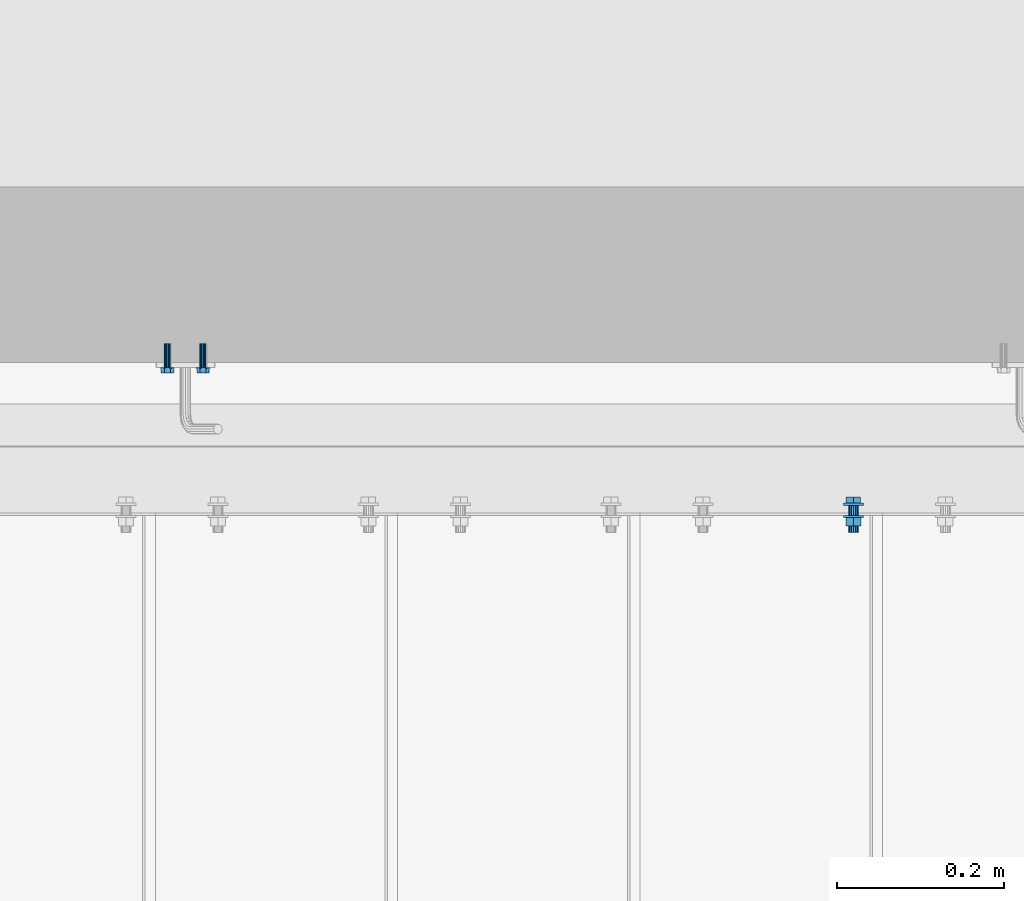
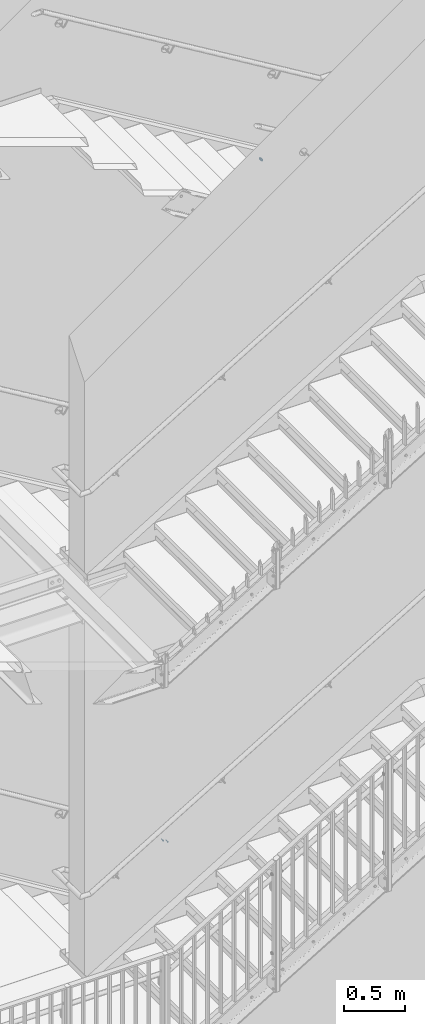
# One storey, part 350 of 410: 2 mechanical fasteners.
"""IFC2X3 building model written with IfcOpenShell, lengths in millimetres."""

from ifc_helpers import new_model, entity, si_unit, converted_unit, origin_with_axes, place, context, project, spatial, faceted_brep, element, save


model = new_model("IFC2X3")

# Units and contexts
model_context = context("Model", 3, precision=1e-09, world=origin_with_axes())
ifc_project = project(units=[si_unit("LENGTHUNIT", "METRE", prefix="MILLI"), si_unit("AREAUNIT", "SQUARE_METRE"), si_unit("VOLUMEUNIT", "CUBIC_METRE"), converted_unit("PLANEANGLEUNIT", "DEGREE", entity("IfcPlaneAngleMeasure", 0.01745329), si_unit("PLANEANGLEUNIT", "RADIAN"), dimensions=[0, 0, 0, 0, 0, 0, 0])], contexts=[model_context])

# Site, building, storey
site_placement = place(None, origin_with_axes())
site = spatial("IfcSite", under=ifc_project, at=site_placement, Name="mKR Teilneubau & Sanierung BA1 - Ostfildern", CompositionType="ELEMENT")
building_placement = place(site_placement, origin_with_axes())
building = spatial("IfcBuilding", under=site, at=building_placement, Name="Struktur 1", CompositionType="ELEMENT")
storey_placement = place(building_placement, origin_with_axes())
storey = spatial("IfcBuildingStorey", under=building, at=storey_placement, Name="Default Storey", CompositionType="ELEMENT", Elevation=0.0)

# Mechanical fasteners
mechanical_fastener_1_placement = place(None, origin_with_axes())
element("IfcMechanicalFastener", 1, at=mechanical_fastener_1_placement, inside=storey, ObjectType="Bolt", NominalDiameter=12.0, NominalLength=35.0, context=model_context, shape_type="Brep", body=[
    faceted_brep([(882.0, 18451.499999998, 6220.0), (882.0, 18448.999999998, 6220.0), (881.769423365, 18448.999999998, 6217.658916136), (881.769423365, 18451.499999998, 6217.658916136), (881.08655439, 18448.999999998, 6215.407798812), (881.08655439, 18451.499999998, 6215.407798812), (879.977635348, 18448.999999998, 6213.333157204), (879.977635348, 18451.499999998, 6213.333157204), (878.485281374, 18448.999999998, 6211.514718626), (878.485281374, 18451.499999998, 6211.514718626), (876.666842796, 18448.999999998, 6210.022364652), (876.666842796, 18451.499999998, 6210.022364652), (874.592201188, 18448.999999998, 6208.91344561), (874.592201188, 18451.499999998, 6208.91344561), (872.341083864, 18448.999999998, 6208.230576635), (872.341083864, 18451.499999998, 6208.230576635), (870.0, 18448.999999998, 6208.0), (870.0, 18451.499999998, 6208.0), (867.658916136, 18448.999999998, 6208.230576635), (867.658916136, 18451.499999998, 6208.230576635), (865.407798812, 18448.999999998, 6208.91344561), (865.407798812, 18451.499999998, 6208.91344561), (863.333157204, 18448.999999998, 6210.022364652), (863.333157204, 18451.499999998, 6210.022364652), (861.514718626, 18448.999999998, 6211.514718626), (861.514718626, 18451.499999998, 6211.514718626), (860.022364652, 18448.999999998, 6213.333157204), (860.022364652, 18451.499999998, 6213.333157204), (858.91344561, 18448.999999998, 6215.407798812), (858.91344561, 18451.499999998, 6215.407798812), (858.230576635, 18448.999999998, 6217.658916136), (858.230576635, 18451.499999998, 6217.658916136), (858.0, 18448.999999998, 6220.0), (858.0, 18451.499999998, 6220.0), (858.230576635, 18448.999999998, 6222.341083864), (858.230576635, 18451.499999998, 6222.341083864), (858.91344561, 18448.999999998, 6224.592201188), (858.91344561, 18451.499999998, 6224.592201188), (860.022364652, 18448.999999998, 6226.666842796), (860.022364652, 18451.499999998, 6226.666842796), (861.514718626, 18448.999999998, 6228.485281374), (861.514718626, 18451.499999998, 6228.485281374), (863.333157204, 18448.999999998, 6229.977635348), (863.333157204, 18451.499999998, 6229.977635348), (865.407798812, 18448.999999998, 6231.08655439), (865.407798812, 18451.499999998, 6231.08655439), (867.658916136, 18448.999999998, 6231.769423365), (867.658916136, 18451.499999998, 6231.769423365), (870.0, 18448.999999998, 6232.0), (870.0, 18451.499999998, 6232.0), (872.341083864, 18448.999999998, 6231.769423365), (872.341083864, 18451.499999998, 6231.769423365), (874.592201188, 18448.999999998, 6231.08655439), (874.592201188, 18451.499999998, 6231.08655439), (876.666842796, 18448.999999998, 6229.977635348), (876.666842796, 18451.499999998, 6229.977635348), (878.485281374, 18448.999999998, 6228.485281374), (878.485281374, 18451.499999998, 6228.485281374), (879.977635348, 18448.999999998, 6226.666842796), (879.977635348, 18451.499999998, 6226.666842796), (881.08655439, 18448.999999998, 6224.592201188), (881.08655439, 18451.499999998, 6224.592201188), (881.769423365, 18448.999999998, 6222.341083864), (881.769423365, 18451.499999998, 6222.341083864)], [[[0, 1, 2, 3]], [[3, 2, 4, 5]], [[5, 4, 6, 7]], [[7, 6, 8, 9]], [[9, 8, 10, 11]], [[11, 10, 12, 13]], [[13, 12, 14, 15]], [[15, 14, 16, 17]], [[17, 16, 18, 19]], [[19, 18, 20, 21]], [[21, 20, 22, 23]], [[23, 22, 24, 25]], [[25, 24, 26, 27]], [[27, 26, 28, 29]], [[29, 28, 30, 31]], [[31, 30, 32, 33]], [[33, 32, 34, 35]], [[35, 34, 36, 37]], [[37, 36, 38, 39]], [[39, 38, 40, 41]], [[41, 40, 42, 43]], [[43, 42, 44, 45]], [[45, 44, 46, 47]], [[47, 46, 48, 49]], [[49, 48, 50, 51]], [[51, 50, 52, 53]], [[53, 52, 54, 55]], [[55, 54, 56, 57]], [[57, 56, 58, 59]], [[59, 58, 60, 61]], [[61, 60, 62, 63]], [[63, 62, 1, 0]], [[0, 3, 5, 7, 9, 11, 13, 15, 17, 19, 21, 23, 25, 27, 29, 31, 33, 35, 37, 39, 41, 43, 45, 47, 49, 51, 53, 55, 57, 59, 61, 63]], [[1, 62, 60, 58, 56, 54, 52, 50, 48, 46, 44, 42, 40, 38, 36, 34, 32, 30, 28, 26, 24, 22, 20, 18, 16, 14, 12, 10, 8, 6, 4, 2]]]),
    faceted_brep([(861.326755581, 18451.499999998, 6214.9925), (861.326755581, 18458.999999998, 6214.9925), (870.0, 18458.999999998, 6209.985), (870.0, 18451.499999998, 6209.985), (878.673244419, 18458.999999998, 6214.9925), (878.673244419, 18451.499999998, 6214.9925), (878.673244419, 18458.999999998, 6225.0075), (878.673244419, 18451.499999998, 6225.0075), (870.0, 18458.999999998, 6230.015), (870.0, 18451.499999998, 6230.015), (861.326755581, 18458.999999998, 6225.0075), (861.326755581, 18451.499999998, 6225.0075)], [[[0, 1, 2, 3]], [[3, 2, 4, 5]], [[5, 4, 6, 7]], [[7, 6, 8, 9]], [[9, 8, 10, 11]], [[11, 10, 1, 0]], [[4, 2, 1, 10, 8, 6]], [[0, 3, 5, 7, 9, 11]]]),
    faceted_brep([(876.0, 18448.999999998, 6220.0), (876.0, 18436.999999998, 6220.0), (875.543277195, 18436.999999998, 6217.703899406), (875.543277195, 18448.999999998, 6217.703899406), (874.242640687, 18436.999999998, 6215.757359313), (874.242640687, 18448.999999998, 6215.757359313), (872.296100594, 18436.999999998, 6214.456722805), (872.296100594, 18448.999999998, 6214.456722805), (870.0, 18436.999999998, 6214.0), (870.0, 18448.999999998, 6214.0), (867.703899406, 18436.999999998, 6214.456722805), (867.703899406, 18448.999999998, 6214.456722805), (865.757359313, 18436.999999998, 6215.757359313), (865.757359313, 18448.999999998, 6215.757359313), (864.456722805, 18436.999999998, 6217.703899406), (864.456722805, 18448.999999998, 6217.703899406), (864.0, 18436.999999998, 6220.0), (864.0, 18448.999999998, 6220.0), (864.456722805, 18436.999999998, 6222.296100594), (864.456722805, 18448.999999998, 6222.296100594), (865.757359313, 18436.999999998, 6224.242640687), (865.757359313, 18448.999999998, 6224.242640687), (867.703899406, 18436.999999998, 6225.543277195), (867.703899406, 18448.999999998, 6225.543277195), (870.0, 18436.999999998, 6226.0), (870.0, 18448.999999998, 6226.0), (872.296100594, 18436.999999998, 6225.543277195), (872.296100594, 18448.999999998, 6225.543277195), (874.242640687, 18436.999999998, 6224.242640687), (874.242640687, 18448.999999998, 6224.242640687), (875.543277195, 18436.999999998, 6222.296100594), (875.543277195, 18448.999999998, 6222.296100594)], [[[0, 1, 2, 3]], [[3, 2, 4, 5]], [[5, 4, 6, 7]], [[7, 6, 8, 9]], [[9, 8, 10, 11]], [[11, 10, 12, 13]], [[13, 12, 14, 15]], [[15, 14, 16, 17]], [[17, 16, 18, 19]], [[19, 18, 20, 21]], [[21, 20, 22, 23]], [[23, 22, 24, 25]], [[25, 24, 26, 27]], [[27, 26, 28, 29]], [[29, 28, 30, 31]], [[31, 30, 1, 0]], [[0, 3, 5, 7, 9, 11, 13, 15, 17, 19, 21, 23, 25, 27, 29, 31]], [[1, 30, 28, 26, 24, 22, 20, 18, 16, 14, 12, 10, 8, 6, 4, 2]]]),
    faceted_brep([(882.0, 18436.999999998, 6220.0), (882.0, 18434.499999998, 6220.0), (881.769423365, 18434.499999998, 6217.658916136), (881.769423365, 18436.999999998, 6217.658916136), (881.08655439, 18434.499999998, 6215.407798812), (881.08655439, 18436.999999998, 6215.407798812), (879.977635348, 18434.499999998, 6213.333157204), (879.977635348, 18436.999999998, 6213.333157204), (878.485281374, 18434.499999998, 6211.514718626), (878.485281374, 18436.999999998, 6211.514718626), (876.666842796, 18434.499999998, 6210.022364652), (876.666842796, 18436.999999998, 6210.022364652), (874.592201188, 18434.499999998, 6208.91344561), (874.592201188, 18436.999999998, 6208.91344561), (872.341083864, 18434.499999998, 6208.230576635), (872.341083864, 18436.999999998, 6208.230576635), (870.0, 18434.499999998, 6208.0), (870.0, 18436.999999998, 6208.0), (867.658916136, 18434.499999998, 6208.230576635), (867.658916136, 18436.999999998, 6208.230576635), (865.407798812, 18434.499999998, 6208.91344561), (865.407798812, 18436.999999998, 6208.91344561), (863.333157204, 18434.499999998, 6210.022364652), (863.333157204, 18436.999999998, 6210.022364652), (861.514718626, 18434.499999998, 6211.514718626), (861.514718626, 18436.999999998, 6211.514718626), (860.022364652, 18434.499999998, 6213.333157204), (860.022364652, 18436.999999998, 6213.333157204), (858.91344561, 18434.499999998, 6215.407798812), (858.91344561, 18436.999999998, 6215.407798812), (858.230576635, 18434.499999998, 6217.658916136), (858.230576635, 18436.999999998, 6217.658916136), (858.0, 18434.499999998, 6220.0), (858.0, 18436.999999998, 6220.0), (858.230576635, 18434.499999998, 6222.341083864), (858.230576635, 18436.999999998, 6222.341083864), (858.91344561, 18434.499999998, 6224.592201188), (858.91344561, 18436.999999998, 6224.592201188), (860.022364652, 18434.499999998, 6226.666842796), (860.022364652, 18436.999999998, 6226.666842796), (861.514718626, 18434.499999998, 6228.485281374), (861.514718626, 18436.999999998, 6228.485281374), (863.333157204, 18434.499999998, 6229.977635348), (863.333157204, 18436.999999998, 6229.977635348), (865.407798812, 18434.499999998, 6231.08655439), (865.407798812, 18436.999999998, 6231.08655439), (867.658916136, 18434.499999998, 6231.769423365), (867.658916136, 18436.999999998, 6231.769423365), (870.0, 18434.499999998, 6232.0), (870.0, 18436.999999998, 6232.0), (872.341083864, 18434.499999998, 6231.769423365), (872.341083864, 18436.999999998, 6231.769423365), (874.592201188, 18434.499999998, 6231.08655439), (874.592201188, 18436.999999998, 6231.08655439), (876.666842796, 18434.499999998, 6229.977635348), (876.666842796, 18436.999999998, 6229.977635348), (878.485281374, 18434.499999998, 6228.485281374), (878.485281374, 18436.999999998, 6228.485281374), (879.977635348, 18434.499999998, 6226.666842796), (879.977635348, 18436.999999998, 6226.666842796), (881.08655439, 18434.499999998, 6224.592201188), (881.08655439, 18436.999999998, 6224.592201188), (881.769423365, 18434.499999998, 6222.341083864), (881.769423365, 18436.999999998, 6222.341083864)], [[[0, 1, 2, 3]], [[3, 2, 4, 5]], [[5, 4, 6, 7]], [[7, 6, 8, 9]], [[9, 8, 10, 11]], [[11, 10, 12, 13]], [[13, 12, 14, 15]], [[15, 14, 16, 17]], [[17, 16, 18, 19]], [[19, 18, 20, 21]], [[21, 20, 22, 23]], [[23, 22, 24, 25]], [[25, 24, 26, 27]], [[27, 26, 28, 29]], [[29, 28, 30, 31]], [[31, 30, 32, 33]], [[33, 32, 34, 35]], [[35, 34, 36, 37]], [[37, 36, 38, 39]], [[39, 38, 40, 41]], [[41, 40, 42, 43]], [[43, 42, 44, 45]], [[45, 44, 46, 47]], [[47, 46, 48, 49]], [[49, 48, 50, 51]], [[51, 50, 52, 53]], [[53, 52, 54, 55]], [[55, 54, 56, 57]], [[57, 56, 58, 59]], [[59, 58, 60, 61]], [[61, 60, 62, 63]], [[63, 62, 1, 0]], [[0, 3, 5, 7, 9, 11, 13, 15, 17, 19, 21, 23, 25, 27, 29, 31, 33, 35, 37, 39, 41, 43, 45, 47, 49, 51, 53, 55, 57, 59, 61, 63]], [[1, 62, 60, 58, 56, 54, 52, 50, 48, 46, 44, 42, 40, 38, 36, 34, 32, 30, 28, 26, 24, 22, 20, 18, 16, 14, 12, 10, 8, 6, 4, 2]]]),
    faceted_brep([(860.86343199, 18424.499999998, 6214.725), (860.86343199, 18434.499999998, 6214.725), (870.0, 18434.499999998, 6209.45), (870.0, 18424.499999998, 6209.45), (879.13656801, 18434.499999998, 6214.725), (879.13656801, 18424.499999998, 6214.725), (879.13656801, 18434.499999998, 6225.275), (879.13656801, 18424.499999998, 6225.275), (870.0, 18434.499999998, 6230.55), (870.0, 18424.499999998, 6230.55), (860.86343199, 18434.499999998, 6225.275), (860.86343199, 18424.499999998, 6225.275)], [[[0, 1, 2, 3]], [[3, 2, 4, 5]], [[5, 4, 6, 7]], [[7, 6, 8, 9]], [[9, 8, 10, 11]], [[11, 10, 1, 0]], [[4, 2, 1, 10, 8, 6]], [[0, 3, 5, 7, 9, 11]]]),
    faceted_brep([(876.0, 18424.499999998, 6220.0), (876.0, 18416.499999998, 6220.0), (875.543277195, 18416.499999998, 6217.703899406), (875.543277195, 18424.499999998, 6217.703899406), (874.242640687, 18416.499999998, 6215.757359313), (874.242640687, 18424.499999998, 6215.757359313), (872.296100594, 18416.499999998, 6214.456722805), (872.296100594, 18424.499999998, 6214.456722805), (870.0, 18416.499999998, 6214.0), (870.0, 18424.499999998, 6214.0), (867.703899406, 18416.499999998, 6214.456722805), (867.703899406, 18424.499999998, 6214.456722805), (865.757359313, 18416.499999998, 6215.757359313), (865.757359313, 18424.499999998, 6215.757359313), (864.456722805, 18416.499999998, 6217.703899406), (864.456722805, 18424.499999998, 6217.703899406), (864.0, 18416.499999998, 6220.0), (864.0, 18424.499999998, 6220.0), (864.456722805, 18416.499999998, 6222.296100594), (864.456722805, 18424.499999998, 6222.296100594), (865.757359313, 18416.499999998, 6224.242640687), (865.757359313, 18424.499999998, 6224.242640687), (867.703899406, 18416.499999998, 6225.543277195), (867.703899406, 18424.499999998, 6225.543277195), (870.0, 18416.499999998, 6226.0), (870.0, 18424.499999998, 6226.0), (872.296100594, 18416.499999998, 6225.543277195), (872.296100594, 18424.499999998, 6225.543277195), (874.242640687, 18416.499999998, 6224.242640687), (874.242640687, 18424.499999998, 6224.242640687), (875.543277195, 18416.499999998, 6222.296100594), (875.543277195, 18424.499999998, 6222.296100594)], [[[0, 1, 2, 3]], [[3, 2, 4, 5]], [[5, 4, 6, 7]], [[7, 6, 8, 9]], [[9, 8, 10, 11]], [[11, 10, 12, 13]], [[13, 12, 14, 15]], [[15, 14, 16, 17]], [[17, 16, 18, 19]], [[19, 18, 20, 21]], [[21, 20, 22, 23]], [[23, 22, 24, 25]], [[25, 24, 26, 27]], [[27, 26, 28, 29]], [[29, 28, 30, 31]], [[31, 30, 1, 0]], [[0, 3, 5, 7, 9, 11, 13, 15, 17, 19, 21, 23, 25, 27, 29, 31]], [[1, 30, 28, 26, 24, 22, 20, 18, 16, 14, 12, 10, 8, 6, 4, 2]]]),
])
mechanical_fastener_2_placement = place(None, origin_with_axes())
element("IfcMechanicalFastener", 2, at=mechanical_fastener_2_placement, inside=storey, ObjectType="-", NominalDiameter=8.0, NominalLength=30.0, context=model_context, shape_type="Brep", body=[
    faceted_brep([(85.108528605, 18612.400061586, -391.615069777), (85.108528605, 18614.000061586, -391.615069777), (84.420280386, 18614.000061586, -393.024253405), (84.420280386, 18612.400061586, -393.024253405), (84.020174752, 18614.000061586, -394.540630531), (84.020174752, 18612.400061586, -394.540630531), (83.923587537, 18614.000061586, -396.105927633), (83.923587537, 18612.400061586, -396.105927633), (84.134230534, 18614.000061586, -397.659991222), (84.134230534, 18612.400061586, -397.659991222), (84.644008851, 18614.000061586, -399.143099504), (84.644008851, 18612.400061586, -399.143099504), (85.433331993, 18614.000061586, -400.49825746), (85.433331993, 18612.400061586, -400.49825746), (86.471866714, 18614.000061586, -401.67338713), (86.471866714, 18612.400061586, -401.67338713), (87.719702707, 18614.000061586, -402.62332894), (87.719702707, 18612.400061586, -402.62332894), (89.128886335, 18614.000061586, -403.311577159), (89.128886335, 18612.400061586, -403.311577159), (90.645263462, 18614.000061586, -403.711682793), (90.645263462, 18612.400061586, -403.711682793), (92.210560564, 18614.000061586, -403.808270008), (92.210560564, 18612.400061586, -403.808270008), (93.764624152, 18614.000061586, -403.597627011), (93.764624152, 18612.400061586, -403.597627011), (95.247732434, 18614.000061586, -403.087848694), (95.247732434, 18612.400061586, -403.087848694), (96.60289039, 18614.000061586, -402.298525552), (96.60289039, 18612.400061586, -402.298525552), (97.77802006, 18614.000061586, -401.259990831), (97.77802006, 18612.400061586, -401.259990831), (98.72796187, 18614.000061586, -400.012154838), (98.72796187, 18612.400061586, -400.012154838), (99.416210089, 18614.000061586, -398.60297121), (99.416210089, 18612.400061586, -398.60297121), (99.816315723, 18614.000061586, -397.086594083), (99.816315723, 18612.400061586, -397.086594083), (99.912902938, 18614.000061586, -395.521296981), (99.912902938, 18612.400061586, -395.521296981), (99.702259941, 18614.000061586, -393.967233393), (99.702259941, 18612.400061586, -393.967233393), (99.192481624, 18614.000061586, -392.484125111), (99.192481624, 18612.400061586, -392.484125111), (98.403158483, 18614.000061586, -391.128967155), (98.403158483, 18612.400061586, -391.128967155), (97.364623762, 18614.000061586, -389.953837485), (97.364623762, 18612.400061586, -389.953837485), (96.116787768, 18614.000061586, -389.003895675), (96.116787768, 18612.400061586, -389.003895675), (94.70760414, 18614.000061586, -388.315647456), (94.70760414, 18612.400061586, -388.315647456), (93.191227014, 18614.000061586, -387.915541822), (93.191227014, 18612.400061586, -387.915541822), (91.625929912, 18614.000061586, -387.818954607), (91.625929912, 18612.400061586, -387.818954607), (90.071866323, 18614.000061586, -388.029597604), (90.071866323, 18612.400061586, -388.029597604), (88.588758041, 18614.000061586, -388.539375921), (88.588758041, 18612.400061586, -388.539375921), (87.233600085, 18614.000061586, -389.328699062), (87.233600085, 18612.400061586, -389.328699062), (86.058470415, 18614.000061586, -390.367233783), (86.058470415, 18612.400061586, -390.367233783)], [[[0, 1, 2, 3]], [[3, 2, 4, 5]], [[5, 4, 6, 7]], [[7, 6, 8, 9]], [[9, 8, 10, 11]], [[11, 10, 12, 13]], [[13, 12, 14, 15]], [[15, 14, 16, 17]], [[17, 16, 18, 19]], [[19, 18, 20, 21]], [[21, 20, 22, 23]], [[23, 22, 24, 25]], [[25, 24, 26, 27]], [[27, 26, 28, 29]], [[29, 28, 30, 31]], [[31, 30, 32, 33]], [[33, 32, 34, 35]], [[35, 34, 36, 37]], [[37, 36, 38, 39]], [[39, 38, 40, 41]], [[41, 40, 42, 43]], [[43, 42, 44, 45]], [[45, 44, 46, 47]], [[47, 46, 48, 49]], [[49, 48, 50, 51]], [[51, 50, 52, 53]], [[53, 52, 54, 55]], [[55, 54, 56, 57]], [[57, 56, 58, 59]], [[59, 58, 60, 61]], [[61, 60, 62, 63]], [[63, 62, 1, 0]], [[0, 3, 5, 7, 9, 11, 13, 15, 17, 19, 21, 23, 25, 27, 29, 31, 33, 35, 37, 39, 41, 43, 45, 47, 49, 51, 53, 55, 57, 59, 61, 63]], [[1, 62, 60, 58, 56, 54, 52, 50, 48, 46, 44, 42, 40, 38, 36, 34, 32, 30, 28, 26, 24, 22, 20, 18, 16, 14, 12, 10, 8, 6, 4, 2]]]),
    faceted_brep([(42.547799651, 18612.400061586, -365.374178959), (42.547799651, 18614.000061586, -365.374178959), (41.859551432, 18614.000061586, -366.783362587), (41.859551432, 18612.400061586, -366.783362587), (41.459445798, 18614.000061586, -368.299739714), (41.459445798, 18612.400061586, -368.299739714), (41.362858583, 18614.000061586, -369.865036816), (41.362858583, 18612.400061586, -369.865036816), (41.57350158, 18614.000061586, -371.419100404), (41.57350158, 18612.400061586, -371.419100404), (42.083279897, 18614.000061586, -372.902208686), (42.083279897, 18612.400061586, -372.902208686), (42.872603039, 18614.000061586, -374.257366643), (42.872603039, 18612.400061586, -374.257366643), (43.911137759, 18614.000061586, -375.432496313), (43.911137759, 18612.400061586, -375.432496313), (45.158973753, 18614.000061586, -376.382438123), (45.158973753, 18612.400061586, -376.382438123), (46.568157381, 18614.000061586, -377.070686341), (46.568157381, 18612.400061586, -377.070686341), (48.084534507, 18614.000061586, -377.470791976), (48.084534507, 18612.400061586, -377.470791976), (49.64983161, 18614.000061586, -377.567379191), (49.64983161, 18612.400061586, -377.567379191), (51.203895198, 18614.000061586, -377.356736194), (51.203895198, 18612.400061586, -377.356736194), (52.68700348, 18614.000061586, -376.846957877), (52.68700348, 18612.400061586, -376.846957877), (54.042161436, 18614.000061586, -376.057634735), (54.042161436, 18612.400061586, -376.057634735), (55.217291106, 18614.000061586, -375.019100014), (55.217291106, 18612.400061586, -375.019100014), (56.167232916, 18614.000061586, -373.771264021), (56.167232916, 18612.400061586, -373.771264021), (56.855481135, 18614.000061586, -372.362080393), (56.855481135, 18612.400061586, -372.362080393), (57.255586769, 18614.000061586, -370.845703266), (57.255586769, 18612.400061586, -370.845703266), (57.352173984, 18614.000061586, -369.280406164), (57.352173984, 18612.400061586, -369.280406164), (57.141530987, 18614.000061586, -367.726342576), (57.141530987, 18612.400061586, -367.726342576), (56.63175267, 18614.000061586, -366.243234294), (56.63175267, 18612.400061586, -366.243234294), (55.842429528, 18614.000061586, -364.888076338), (55.842429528, 18612.400061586, -364.888076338), (54.803894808, 18614.000061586, -363.712946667), (54.803894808, 18612.400061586, -363.712946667), (53.556058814, 18614.000061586, -362.763004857), (53.556058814, 18612.400061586, -362.763004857), (52.146875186, 18614.000061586, -362.074756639), (52.146875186, 18612.400061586, -362.074756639), (50.63049806, 18614.000061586, -361.674651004), (50.63049806, 18612.400061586, -361.674651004), (49.065200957, 18614.000061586, -361.578063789), (49.065200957, 18612.400061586, -361.578063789), (47.511137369, 18614.000061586, -361.788706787), (47.511137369, 18612.400061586, -361.788706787), (46.028029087, 18614.000061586, -362.298485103), (46.028029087, 18612.400061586, -362.298485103), (44.672871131, 18614.000061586, -363.087808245), (44.672871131, 18612.400061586, -363.087808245), (43.497741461, 18614.000061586, -364.126342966), (43.497741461, 18612.400061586, -364.126342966)], [[[0, 1, 2, 3]], [[3, 2, 4, 5]], [[5, 4, 6, 7]], [[7, 6, 8, 9]], [[9, 8, 10, 11]], [[11, 10, 12, 13]], [[13, 12, 14, 15]], [[15, 14, 16, 17]], [[17, 16, 18, 19]], [[19, 18, 20, 21]], [[21, 20, 22, 23]], [[23, 22, 24, 25]], [[25, 24, 26, 27]], [[27, 26, 28, 29]], [[29, 28, 30, 31]], [[31, 30, 32, 33]], [[33, 32, 34, 35]], [[35, 34, 36, 37]], [[37, 36, 38, 39]], [[39, 38, 40, 41]], [[41, 40, 42, 43]], [[43, 42, 44, 45]], [[45, 44, 46, 47]], [[47, 46, 48, 49]], [[49, 48, 50, 51]], [[51, 50, 52, 53]], [[53, 52, 54, 55]], [[55, 54, 56, 57]], [[57, 56, 58, 59]], [[59, 58, 60, 61]], [[61, 60, 62, 63]], [[63, 62, 1, 0]], [[0, 3, 5, 7, 9, 11, 13, 15, 17, 19, 21, 23, 25, 27, 29, 31, 33, 35, 37, 39, 41, 43, 45, 47, 49, 51, 53, 55, 57, 59, 61, 63]], [[1, 62, 60, 58, 56, 54, 52, 50, 48, 46, 44, 42, 40, 38, 36, 34, 32, 30, 28, 26, 24, 22, 20, 18, 16, 14, 12, 10, 8, 6, 4, 2]]]),
    faceted_brep([(95.33180229, 18612.400061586, -402.141623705), (95.33180229, 18607.100061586, -402.141623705), (88.144805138, 18607.100061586, -401.933845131), (88.144805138, 18612.400061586, -401.933845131), (84.731248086, 18607.100061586, -395.605833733), (84.731248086, 18612.400061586, -395.605833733), (88.504688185, 18607.100061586, -389.48560091), (88.504688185, 18612.400061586, -389.48560091), (95.691685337, 18607.100061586, -389.693379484), (95.691685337, 18612.400061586, -389.693379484), (99.10524239, 18607.100061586, -396.021390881), (99.10524239, 18612.400061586, -396.021390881)], [[[0, 1, 2, 3]], [[3, 2, 4, 5]], [[5, 4, 6, 7]], [[7, 6, 8, 9]], [[9, 8, 10, 11]], [[11, 10, 1, 0]], [[4, 2, 1, 10, 8, 6]], [[0, 3, 5, 7, 9, 11]]]),
    faceted_brep([(52.771073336, 18612.400061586, -375.900732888), (52.771073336, 18607.100061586, -375.900732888), (45.584076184, 18607.100061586, -375.692954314), (45.584076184, 18612.400061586, -375.692954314), (42.170519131, 18607.100061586, -369.364942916), (42.170519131, 18612.400061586, -369.364942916), (45.943959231, 18607.100061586, -363.244710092), (45.943959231, 18612.400061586, -363.244710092), (53.130956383, 18607.100061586, -363.452488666), (53.130956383, 18612.400061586, -363.452488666), (56.544513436, 18607.100061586, -369.780500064), (56.544513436, 18612.400061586, -369.780500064)], [[[0, 1, 2, 3]], [[3, 2, 4, 5]], [[5, 4, 6, 7]], [[7, 6, 8, 9]], [[9, 8, 10, 11]], [[11, 10, 1, 0]], [[4, 2, 1, 10, 8, 6]], [[0, 3, 5, 7, 9, 11]]]),
    faceted_brep([(88.513386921, 18614.000061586, -393.714341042), (88.513386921, 18624.000061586, -393.714341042), (87.969209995, 18624.000061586, -395.177121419), (87.969209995, 18614.000061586, -395.177121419), (88.026237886, 18624.000061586, -396.736801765), (88.026237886, 18614.000061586, -396.736801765), (88.675788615, 18624.000061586, -398.155934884), (88.675788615, 18614.000061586, -398.155934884), (89.818973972, 18624.000061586, -399.218470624), (89.818973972, 18614.000061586, -399.218470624), (91.28175435, 18624.000061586, -399.76264755), (91.28175435, 18614.000061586, -399.76264755), (92.841434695, 18624.000061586, -399.705619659), (92.841434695, 18614.000061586, -399.705619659), (94.260567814, 18624.000061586, -399.05606893), (94.260567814, 18614.000061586, -399.05606893), (95.323103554, 18624.000061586, -397.912883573), (95.323103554, 18614.000061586, -397.912883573), (95.867280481, 18624.000061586, -396.450103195), (95.867280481, 18614.000061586, -396.450103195), (95.810252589, 18624.000061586, -394.89042285), (95.810252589, 18614.000061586, -394.89042285), (95.16070186, 18624.000061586, -393.471289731), (95.16070186, 18614.000061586, -393.471289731), (94.017516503, 18624.000061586, -392.408753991), (94.017516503, 18614.000061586, -392.408753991), (92.554736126, 18624.000061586, -391.864577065), (92.554736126, 18614.000061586, -391.864577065), (90.995055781, 18624.000061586, -391.921604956), (90.995055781, 18614.000061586, -391.921604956), (89.575922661, 18624.000061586, -392.571155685), (89.575922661, 18614.000061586, -392.571155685)], [[[0, 1, 2, 3]], [[3, 2, 4, 5]], [[5, 4, 6, 7]], [[7, 6, 8, 9]], [[9, 8, 10, 11]], [[11, 10, 12, 13]], [[13, 12, 14, 15]], [[15, 14, 16, 17]], [[17, 16, 18, 19]], [[19, 18, 20, 21]], [[21, 20, 22, 23]], [[23, 22, 24, 25]], [[25, 24, 26, 27]], [[27, 26, 28, 29]], [[29, 28, 30, 31]], [[31, 30, 1, 0]], [[0, 3, 5, 7, 9, 11, 13, 15, 17, 19, 21, 23, 25, 27, 29, 31]], [[1, 30, 28, 26, 24, 22, 20, 18, 16, 14, 12, 10, 8, 6, 4, 2]]]),
    faceted_brep([(45.952657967, 18614.000061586, -367.473450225), (45.952657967, 18624.000061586, -367.473450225), (45.408481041, 18624.000061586, -368.936230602), (45.408481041, 18614.000061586, -368.936230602), (45.465508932, 18624.000061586, -370.495910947), (45.465508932, 18614.000061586, -370.495910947), (46.115059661, 18624.000061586, -371.915044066), (46.115059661, 18614.000061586, -371.915044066), (47.258245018, 18624.000061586, -372.977579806), (47.258245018, 18614.000061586, -372.977579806), (48.721025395, 18624.000061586, -373.521756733), (48.721025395, 18614.000061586, -373.521756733), (50.280705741, 18624.000061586, -373.464728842), (50.280705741, 18614.000061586, -373.464728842), (51.69983886, 18624.000061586, -372.815178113), (51.69983886, 18614.000061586, -372.815178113), (52.7623746, 18624.000061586, -371.671992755), (52.7623746, 18614.000061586, -371.671992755), (53.306551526, 18624.000061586, -370.209212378), (53.306551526, 18614.000061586, -370.209212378), (53.249523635, 18624.000061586, -368.649532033), (53.249523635, 18614.000061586, -368.649532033), (52.599972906, 18624.000061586, -367.230398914), (52.599972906, 18614.000061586, -367.230398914), (51.456787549, 18624.000061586, -366.167863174), (51.456787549, 18614.000061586, -366.167863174), (49.994007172, 18624.000061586, -365.623686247), (49.994007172, 18614.000061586, -365.623686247), (48.434326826, 18624.000061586, -365.680714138), (48.434326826, 18614.000061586, -365.680714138), (47.015193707, 18624.000061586, -366.330264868), (47.015193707, 18614.000061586, -366.330264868)], [[[0, 1, 2, 3]], [[3, 2, 4, 5]], [[5, 4, 6, 7]], [[7, 6, 8, 9]], [[9, 8, 10, 11]], [[11, 10, 12, 13]], [[13, 12, 14, 15]], [[15, 14, 16, 17]], [[17, 16, 18, 19]], [[19, 18, 20, 21]], [[21, 20, 22, 23]], [[23, 22, 24, 25]], [[25, 24, 26, 27]], [[27, 26, 28, 29]], [[29, 28, 30, 31]], [[31, 30, 1, 0]], [[0, 3, 5, 7, 9, 11, 13, 15, 17, 19, 21, 23, 25, 27, 29, 31]], [[1, 30, 28, 26, 24, 22, 20, 18, 16, 14, 12, 10, 8, 6, 4, 2]]]),
    faceted_brep([(88.513386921, 18624.000061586, -393.714341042), (88.513386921, 18642.400061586, -393.714341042), (87.969209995, 18642.400061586, -395.177121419), (87.969209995, 18624.000061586, -395.177121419), (88.026237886, 18642.400061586, -396.736801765), (88.026237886, 18624.000061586, -396.736801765), (88.675788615, 18642.400061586, -398.155934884), (88.675788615, 18624.000061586, -398.155934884), (89.818973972, 18642.400061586, -399.218470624), (89.818973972, 18624.000061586, -399.218470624), (91.28175435, 18642.400061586, -399.76264755), (91.28175435, 18624.000061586, -399.76264755), (92.841434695, 18642.400061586, -399.705619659), (92.841434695, 18624.000061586, -399.705619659), (94.260567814, 18642.400061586, -399.05606893), (94.260567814, 18624.000061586, -399.05606893), (95.323103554, 18642.400061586, -397.912883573), (95.323103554, 18624.000061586, -397.912883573), (95.867280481, 18642.400061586, -396.450103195), (95.867280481, 18624.000061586, -396.450103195), (95.810252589, 18642.400061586, -394.89042285), (95.810252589, 18624.000061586, -394.89042285), (95.16070186, 18642.400061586, -393.471289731), (95.16070186, 18624.000061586, -393.471289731), (94.017516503, 18642.400061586, -392.408753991), (94.017516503, 18624.000061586, -392.408753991), (92.554736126, 18642.400061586, -391.864577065), (92.554736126, 18624.000061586, -391.864577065), (90.995055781, 18642.400061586, -391.921604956), (90.995055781, 18624.000061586, -391.921604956), (89.575922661, 18642.400061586, -392.571155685), (89.575922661, 18624.000061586, -392.571155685)], [[[0, 1, 2, 3]], [[3, 2, 4, 5]], [[5, 4, 6, 7]], [[7, 6, 8, 9]], [[9, 8, 10, 11]], [[11, 10, 12, 13]], [[13, 12, 14, 15]], [[15, 14, 16, 17]], [[17, 16, 18, 19]], [[19, 18, 20, 21]], [[21, 20, 22, 23]], [[23, 22, 24, 25]], [[25, 24, 26, 27]], [[27, 26, 28, 29]], [[29, 28, 30, 31]], [[31, 30, 1, 0]], [[0, 3, 5, 7, 9, 11, 13, 15, 17, 19, 21, 23, 25, 27, 29, 31]], [[1, 30, 28, 26, 24, 22, 20, 18, 16, 14, 12, 10, 8, 6, 4, 2]]]),
    faceted_brep([(45.952657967, 18624.000061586, -367.473450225), (45.952657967, 18642.400061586, -367.473450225), (45.408481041, 18642.400061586, -368.936230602), (45.408481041, 18624.000061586, -368.936230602), (45.465508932, 18642.400061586, -370.495910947), (45.465508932, 18624.000061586, -370.495910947), (46.115059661, 18642.400061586, -371.915044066), (46.115059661, 18624.000061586, -371.915044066), (47.258245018, 18642.400061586, -372.977579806), (47.258245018, 18624.000061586, -372.977579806), (48.721025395, 18642.400061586, -373.521756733), (48.721025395, 18624.000061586, -373.521756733), (50.280705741, 18642.400061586, -373.464728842), (50.280705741, 18624.000061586, -373.464728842), (51.69983886, 18642.400061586, -372.815178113), (51.69983886, 18624.000061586, -372.815178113), (52.7623746, 18642.400061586, -371.671992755), (52.7623746, 18624.000061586, -371.671992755), (53.306551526, 18642.400061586, -370.209212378), (53.306551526, 18624.000061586, -370.209212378), (53.249523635, 18642.400061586, -368.649532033), (53.249523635, 18624.000061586, -368.649532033), (52.599972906, 18642.400061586, -367.230398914), (52.599972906, 18624.000061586, -367.230398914), (51.456787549, 18642.400061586, -366.167863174), (51.456787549, 18624.000061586, -366.167863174), (49.994007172, 18642.400061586, -365.623686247), (49.994007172, 18624.000061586, -365.623686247), (48.434326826, 18642.400061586, -365.680714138), (48.434326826, 18624.000061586, -365.680714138), (47.015193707, 18642.400061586, -366.330264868), (47.015193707, 18624.000061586, -366.330264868)], [[[0, 1, 2, 3]], [[3, 2, 4, 5]], [[5, 4, 6, 7]], [[7, 6, 8, 9]], [[9, 8, 10, 11]], [[11, 10, 12, 13]], [[13, 12, 14, 15]], [[15, 14, 16, 17]], [[17, 16, 18, 19]], [[19, 18, 20, 21]], [[21, 20, 22, 23]], [[23, 22, 24, 25]], [[25, 24, 26, 27]], [[27, 26, 28, 29]], [[29, 28, 30, 31]], [[31, 30, 1, 0]], [[0, 3, 5, 7, 9, 11, 13, 15, 17, 19, 21, 23, 25, 27, 29, 31]], [[1, 30, 28, 26, 24, 22, 20, 18, 16, 14, 12, 10, 8, 6, 4, 2]]]),
])

save(model, "model.ifc")
